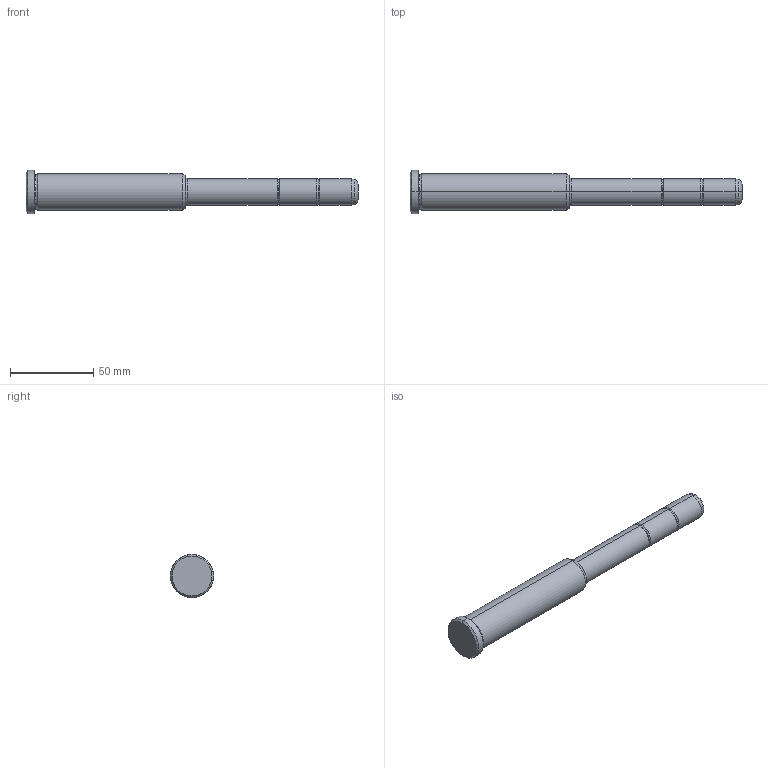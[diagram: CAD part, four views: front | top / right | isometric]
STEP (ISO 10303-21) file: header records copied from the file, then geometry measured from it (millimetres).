
FILE_DESCRIPTION(('CATIA V5 STEP Exchange'),'2;1');
FILE_NAME('C:\Users\Utente\Desktop\IO LAVORO\3D X SITO CF\X SITO\PLASTICA\351\351-16X96X200.stp','2021-08-18T12:53:09+00:00',('none'),('none'),'CATIA Version 5 Release 20 GA (IN-10)','CATIA V5 STEP AP203','none');
FILE_SCHEMA(('CONFIG_CONTROL_DESIGN'));
Length unit declared in the file: millimetre
Products named in the file (1): 351-16X96X200
Bounding box: 200 x 26 x 26 mm (x, y, z)
Volume: 57817.8 mm3; surface area: 12808.7 mm2
Topology: 1 solids, 1 shells, 36 faces, 102 edges, 70 vertices
Faces by surface type: torus 16, cylinder 10, cone 6, plane 4
Entity records: 1292 total; most frequent: CARTESIAN_POINT 321, ORIENTED_EDGE 204, DIRECTION 166, AXIS2_PLACEMENT_3D 115, EDGE_CURVE 102, CIRCLE 78, VERTEX_POINT 70, EDGE_LOOP 38
